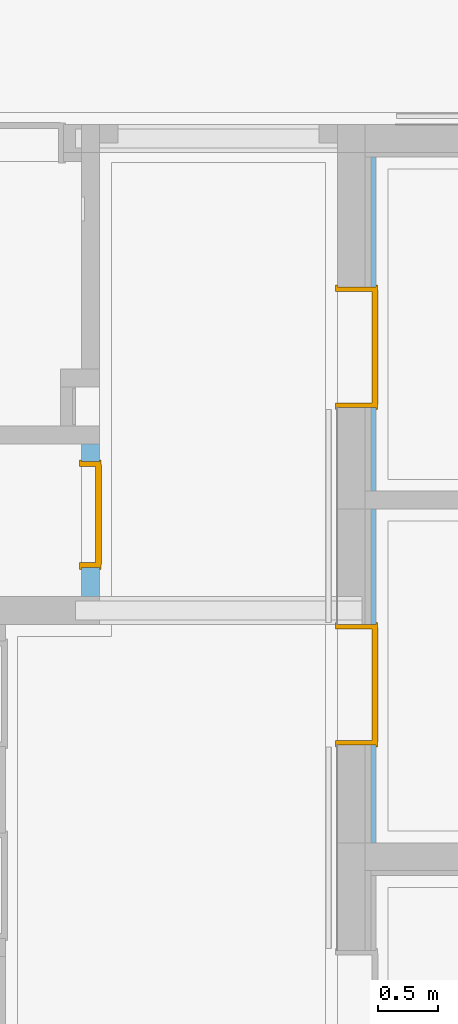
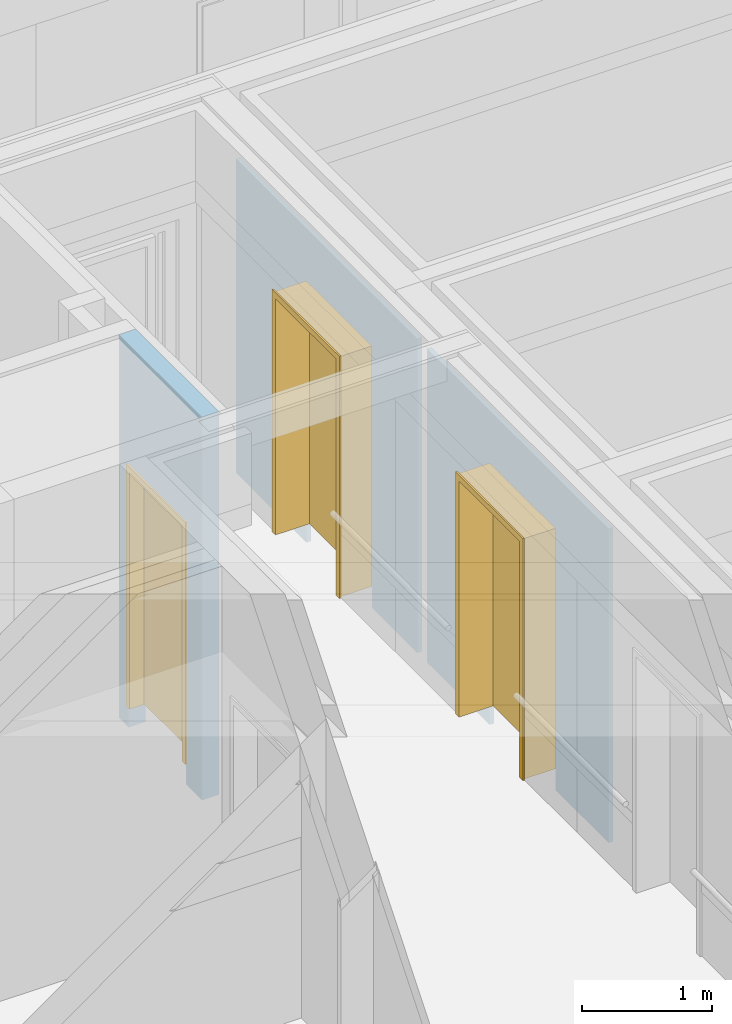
# One storey, part 80 of 207: 3 doors, 3 openings, plus 3 elements that do not belong to this part.
"""IFC4 building model written with IfcOpenShell, lengths in metres."""

from ifc_helpers import new_model, entity, si_unit, converted_unit, derived_unit, frame, frame_2d, origin, origin_with_axes, place, context, subcontext, project, spatial, polyline, rectangle, outline, extrude, faceted_brep, source, transform, mapped, material, type_object, element, fill, save


model = new_model("IFC4")

# Units and contexts
model_context = context("Model", 3, precision=1e-05, world=origin())
body_context = subcontext(model_context, "Body", "Model", "MODEL_VIEW")
ifc_project = project(units=[si_unit("LENGTHUNIT", "METRE"), si_unit("AREAUNIT", "SQUARE_METRE"), si_unit("VOLUMEUNIT", "CUBIC_METRE"), si_unit("MASSUNIT", "GRAM", prefix="KILO"), converted_unit("PLANEANGLEUNIT", "DEGREE", entity("IfcPlaneAngleMeasure", 0.0174532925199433), si_unit("PLANEANGLEUNIT", "RADIAN"), dimensions=[0, 0, 0, 0, 0, 0, 0]), derived_unit("THERMALTRANSMITTANCEUNIT", [(si_unit("POWERUNIT", "WATT"), 1), (si_unit("THERMODYNAMICTEMPERATUREUNIT", "KELVIN"), -1), (si_unit("LENGTHUNIT", "METRE"), -2)]), derived_unit("VOLUMETRICFLOWRATEUNIT", [(si_unit("LENGTHUNIT", "METRE"), 3), (converted_unit("TIMEUNIT", "hour", entity("IfcTimeMeasure", 3600.0), si_unit("TIMEUNIT", "SECOND"), dimensions=[0, 0, 1, 0, 0, 0, 0]), -1), (si_unit("LENGTHUNIT", "METRE"), -1)])], contexts=[model_context])

# Site, building, storey
site_placement = place(None, origin())
site = spatial("IfcSite", under=ifc_project, at=site_placement, Name="Psychiatrie Neubau Wunstorf", CompositionType="ELEMENT")
building_placement = place(site_placement, origin())
building = spatial("IfcBuilding", under=site, at=building_placement, Name="Neubau H2 Stationsgebäude", CompositionType="ELEMENT")
storey_placement = place(building_placement, frame((0.0, 0.0, -0.2)))
storey = spatial("IfcBuildingStorey", under=building, at=storey_placement, Name="H2 Ebene 0", CompositionType="ELEMENT", Elevation=-0.2)

# Wall, opening, door
ifc_material_1 = material(Name="WI-LB")
wall_1_placement = place(storey_placement, frame((7.775, 19.1650101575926, 0.0), z_axis=(0.0, 0.0, 1.0), x_axis=(0.0, -1.0, 0.0)))
wall_1 = element("IfcWall", 1, at=wall_1_placement, inside=storey, material=ifc_material_1, context=body_context, shape_type="SweptSolid", body=[
    extrude(rectangle(XDim=1.2789969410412, YDim=0.15, at=frame_2d((0.639498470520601, 0.075), x_axis=(1.0, 0.0))), origin_with_axes(), (0.0, 0.0, 1.0), 3.6),
])
opening_1_placement = place(wall_1_placement, frame((1.03500010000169, 0.15, 0.0), z_axis=(0.0, -1.0, 0.0), x_axis=(0.0, 0.0, 1.0)))
opening_1 = element("IfcOpeningElement", 2, at=opening_1_placement, cuts=wall_1, Name="Türöffnung", ObjectType="Opening", context=body_context, shape_type="SweptSolid", body=[
    extrude(outline(polyline([(2.46, 0.885000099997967), (2.46, 0.0), (0.0, 0.0), (0.0, 0.885000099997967), (2.46, 0.885000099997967)])), origin_with_axes(), (0.0, 0.0, 1.0), 0.15),
])
ifc_material_2 = material(Name="TI-1F-UZ-ZK")
door_type_1 = type_object("IfcDoorType", Name="SMT", OperationType="SINGLE_SWING_RIGHT", ParameterTakesPrecedence=False, PredefinedType="DOOR")
shared_shape_1 = source(origin_with_axes(), body_context, "Body", "Brep", [
    faceted_brep([(-0.0649999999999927, 0.0249999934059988, 0.0), (-0.0249999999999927, 0.0249999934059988, 0.0), (-0.0249999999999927, 0.124999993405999, 0.0), (-0.0649999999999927, 0.124999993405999, 0.0), (-0.0649999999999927, 0.124999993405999, 3.6), (-0.0249999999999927, 0.124999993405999, 3.6), (-0.0249999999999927, 0.0249999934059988, 3.6), (-0.0649999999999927, 0.0249999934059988, 3.6)], [[[0, 1, 2, 3]], [[4, 5, 6, 7]], [[3, 4, 7, 0]], [[2, 5, 4, 3]], [[1, 6, 5, 2]], [[0, 7, 6, 1]]], orient=[[False], [False], [False], [False], [False], [False]]),
    faceted_brep([(0.910000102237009, 0.0249999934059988, 0.0), (0.950000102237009, 0.0249999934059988, 0.0), (0.950000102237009, 0.124999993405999, 0.0), (0.910000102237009, 0.124999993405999, 0.0), (0.910000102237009, 0.124999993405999, 3.6), (0.950000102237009, 0.124999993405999, 3.6), (0.950000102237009, 0.0249999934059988, 3.6), (0.910000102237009, 0.0249999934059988, 3.6)], [[[0, 1, 2, 3]], [[4, 5, 6, 7]], [[3, 4, 7, 0]], [[2, 5, 4, 3]], [[1, 6, 5, 2]], [[0, 7, 6, 1]]], orient=[[False], [False], [False], [False], [False], [False]]),
    faceted_brep([(-0.0249999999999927, 0.0249999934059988, 2.485), (0.910000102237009, 0.0249999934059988, 2.485), (0.910000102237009, 0.124999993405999, 2.485), (-0.0249999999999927, 0.124999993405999, 2.485), (-0.0249999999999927, 0.124999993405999, 2.525), (0.910000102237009, 0.124999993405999, 2.525), (0.910000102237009, 0.0249999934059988, 2.525), (-0.0249999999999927, 0.0249999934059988, 2.525)], [[[0, 1, 2, 3]], [[4, 5, 6, 7]], [[3, 4, 7, 0]], [[2, 5, 4, 3]], [[1, 6, 5, 2]], [[0, 7, 6, 1]]], orient=[[False], [False], [False], [False], [False], [False]]),
])
shared_shape_2 = source(origin_with_axes(), body_context, "Body", "Brep", [
    faceted_brep([(0.0, -0.0150000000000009, 2.46), (0.0400000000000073, -0.0150000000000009, 2.46), (0.0400000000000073, -0.0150000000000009, 0.2), (0.0, -0.0150000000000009, 0.2), (0.0, 0.164999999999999, 0.2), (0.0400000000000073, 0.164999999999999, 0.2), (0.0400000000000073, 0.164999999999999, 2.46), (0.0, 0.164999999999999, 2.46)], [[[0, 1, 2, 3]], [[4, 5, 6, 7]], [[3, 4, 7, 0]], [[2, 5, 4, 3]], [[1, 6, 5, 2]], [[0, 7, 6, 1]]], orient=[[False], [False], [False], [False], [False], [False]]),
    faceted_brep([(0.0, -0.0150000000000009, 2.475), (0.0, -0.0150000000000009, 0.2), (-0.0149999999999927, -0.0150000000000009, 0.2), (-0.0149999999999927, -0.0150000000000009, 2.475), (0.0, 0.0, 0.2), (0.0, 0.0, 2.475), (-0.0149999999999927, 0.0, 2.475), (-0.0149999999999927, 0.0, 0.2)], [[[0, 1, 2, 3]], [[4, 5, 6, 7]], [[1, 0, 5, 4]], [[2, 1, 4, 7]], [[3, 2, 7, 6]], [[0, 3, 6, 5]]], orient=[[False], [False], [False], [False], [False], [False]]),
    faceted_brep([(0.0, 0.149999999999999, 2.475), (0.0, 0.149999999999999, 0.2), (-0.0149999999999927, 0.149999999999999, 0.2), (-0.0149999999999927, 0.149999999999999, 2.475), (0.0, 0.164999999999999, 0.2), (0.0, 0.164999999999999, 2.475), (-0.0149999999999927, 0.164999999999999, 2.475), (-0.0149999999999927, 0.164999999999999, 0.2)], [[[0, 1, 2, 3]], [[4, 5, 6, 7]], [[1, 0, 5, 4]], [[2, 1, 4, 7]], [[3, 2, 7, 6]], [[0, 3, 6, 5]]], orient=[[False], [False], [False], [False], [False], [False]]),
    faceted_brep([(0.8450001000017, -0.0150000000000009, 2.46), (0.8850001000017, -0.0150000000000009, 2.46), (0.8850001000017, -0.0150000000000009, 0.2), (0.8450001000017, -0.0150000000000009, 0.2), (0.8450001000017, 0.164999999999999, 0.2), (0.8850001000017, 0.164999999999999, 0.2), (0.8850001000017, 0.164999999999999, 2.46), (0.8450001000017, 0.164999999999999, 2.46)], [[[0, 1, 2, 3]], [[4, 5, 6, 7]], [[3, 4, 7, 0]], [[2, 5, 4, 3]], [[1, 6, 5, 2]], [[0, 7, 6, 1]]], orient=[[False], [False], [False], [False], [False], [False]]),
    faceted_brep([(0.8850001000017, -0.0150000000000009, 2.475), (0.9000001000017, -0.0150000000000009, 2.475), (0.9000001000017, -0.0150000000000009, 0.2), (0.8850001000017, -0.0150000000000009, 0.2), (0.8850001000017, 0.0, 0.2), (0.9000001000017, 0.0, 0.2), (0.9000001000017, 0.0, 2.475), (0.8850001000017, 0.0, 2.475)], [[[0, 1, 2, 3]], [[4, 5, 6, 7]], [[3, 4, 7, 0]], [[2, 5, 4, 3]], [[1, 6, 5, 2]], [[0, 7, 6, 1]]], orient=[[False], [False], [False], [False], [False], [False]]),
    faceted_brep([(0.8850001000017, 0.149999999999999, 2.475), (0.9000001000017, 0.149999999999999, 2.475), (0.9000001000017, 0.149999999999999, 0.2), (0.8850001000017, 0.149999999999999, 0.2), (0.8850001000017, 0.164999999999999, 0.2), (0.9000001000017, 0.164999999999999, 0.2), (0.9000001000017, 0.164999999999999, 2.475), (0.8850001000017, 0.164999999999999, 2.475)], [[[0, 1, 2, 3]], [[4, 5, 6, 7]], [[3, 4, 7, 0]], [[2, 5, 4, 3]], [[1, 6, 5, 2]], [[0, 7, 6, 1]]], orient=[[False], [False], [False], [False], [False], [False]]),
    faceted_brep([(0.0400000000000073, -0.0150000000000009, 2.46), (0.8450001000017, -0.0150000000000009, 2.46), (0.8450001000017, -0.0150000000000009, 2.42), (0.0400000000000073, -0.0150000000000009, 2.42), (0.0400000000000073, 0.164999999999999, 2.42), (0.8450001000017, 0.164999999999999, 2.42), (0.8450001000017, 0.164999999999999, 2.46), (0.0400000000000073, 0.164999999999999, 2.46)], [[[0, 1, 2, 3]], [[4, 5, 6, 7]], [[3, 4, 7, 0]], [[2, 5, 4, 3]], [[1, 6, 5, 2]], [[0, 7, 6, 1]]], orient=[[False], [False], [False], [False], [False], [False]]),
    faceted_brep([(0.0, -0.0150000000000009, 2.475), (0.8850001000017, -0.0150000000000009, 2.475), (0.8850001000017, -0.0150000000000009, 2.46), (0.0, -0.0150000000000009, 2.46), (0.0, 0.0, 2.46), (0.8850001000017, 0.0, 2.46), (0.8850001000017, 0.0, 2.475), (0.0, 0.0, 2.475)], [[[0, 1, 2, 3]], [[4, 5, 6, 7]], [[3, 4, 7, 0]], [[2, 5, 4, 3]], [[1, 6, 5, 2]], [[0, 7, 6, 1]]], orient=[[False], [False], [False], [False], [False], [False]]),
    faceted_brep([(0.0, 0.149999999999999, 2.475), (0.8850001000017, 0.149999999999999, 2.475), (0.8850001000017, 0.149999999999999, 2.46), (0.0, 0.149999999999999, 2.46), (0.0, 0.164999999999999, 2.46), (0.8850001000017, 0.164999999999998, 2.46), (0.8850001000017, 0.164999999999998, 2.475), (0.0, 0.164999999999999, 2.475)], [[[0, 1, 2, 3]], [[4, 5, 6, 7]], [[3, 4, 7, 0]], [[2, 5, 4, 3]], [[1, 6, 5, 2]], [[0, 7, 6, 1]]], orient=[[False], [False], [False], [False], [False], [False]]),
    faceted_brep([(0.0250000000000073, 0.115999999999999, 2.435), (0.8600001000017, 0.115999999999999, 2.435), (0.8600001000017, 0.115999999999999, 0.2), (0.0250000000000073, 0.115999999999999, 0.2), (0.0250000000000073, 0.165999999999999, 0.2), (0.8600001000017, 0.165999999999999, 0.2), (0.8600001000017, 0.165999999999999, 2.435), (0.0250000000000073, 0.165999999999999, 2.435)], [[[0, 1, 2, 3]], [[4, 5, 6, 7]], [[3, 4, 7, 0]], [[2, 5, 4, 3]], [[1, 6, 5, 2]], [[0, 7, 6, 1]]], orient=[[False], [False], [False], [False], [False], [False]]),
])
door_1_placement = place(opening_1_placement, frame((0.0, 0.885000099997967, 0.15), z_axis=(1.0, 0.0, 0.0), x_axis=(0.0, -1.0, 0.0)))
door_1 = element("IfcDoor", 3, at=door_1_placement, inside=storey, type_object=door_type_1, material=ifc_material_2, Name="SMT", OverallHeight=2.46, OverallWidth=0.885, context=body_context, shape_type="MappedRepresentation", body=[
    mapped(shared_shape_1, transform((0.0, 0.0, 0.0), x_axis=(1.0, 0.0, 0.0), y_axis=(0.0, 1.0, 0.0), z_axis=(0.0, 0.0, 1.0), scale=1.0)),
    mapped(shared_shape_2, transform((0.0, 0.0, 0.0), x_axis=(1.0, 0.0, 0.0), y_axis=(0.0, 1.0, 0.0), z_axis=(0.0, 0.0, 1.0), scale=1.0)),
])
fill(opening_1, door_1)

ifc_material_3 = material(Name="WI-LB")
wall_2_placement = place(storey_placement, frame((10.2390000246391, 18.768, 0.0), z_axis=(0.0, 0.0, 1.0), x_axis=(0.0, 1.0, 0.0)))
wall_2 = element("IfcWall", 4, at=wall_2_placement, inside=storey, material=ifc_material_3, context=body_context, shape_type="SweptSolid", body=[
    extrude(rectangle(XDim=2.796, YDim=0.0395, at=frame_2d((1.398, 0.01975), x_axis=(1.0, 0.0))), origin_with_axes(), (0.0, 0.0, 1.0), 2.95),
])
opening_2_placement = place(wall_2_placement, frame((1.71, 0.0395, 0.0), z_axis=(0.0, -1.0, 0.0), x_axis=(0.0, 0.0, 1.0)))
opening_2 = element("IfcOpeningElement", 5, at=opening_2_placement, cuts=wall_2, Name="Türöffnung", ObjectType="Opening", context=body_context, shape_type="SweptSolid", body=[
    extrude(outline(polyline([(2.46, 1.01), (2.46, 0.0), (0.0, 0.0), (0.0, 1.01), (2.46, 1.01)])), origin_with_axes(), (0.0, 0.0, 1.0), 0.0395),
])
ifc_material_4 = material(Name="TI-1F-UZ-ZK")
door_type_2 = type_object("IfcDoorType", Name="SMT", OperationType="SINGLE_SWING_RIGHT", ParameterTakesPrecedence=False, PredefinedType="DOOR")
shared_shape_3 = source(origin_with_axes(), body_context, "Body", "Brep", [
    faceted_brep([(1.01000000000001, -0.0150000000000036, 2.46), (1.01000000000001, -0.0150000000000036, 0.2), (0.970000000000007, -0.0150000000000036, 0.2), (0.970000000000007, -0.0150000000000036, 2.46), (1.01000000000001, 0.336499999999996, 0.2), (1.01000000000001, 0.336499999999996, 2.46), (0.970000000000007, 0.336499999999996, 2.46), (0.970000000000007, 0.336499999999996, 0.2)], [[[0, 1, 2, 3]], [[4, 5, 6, 7]], [[1, 0, 5, 4]], [[2, 1, 4, 7]], [[3, 2, 7, 6]], [[0, 3, 6, 5]]], orient=[[False], [False], [False], [False], [False], [False]]),
    faceted_brep([(1.01000000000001, -0.0150000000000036, 2.475), (1.02500000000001, -0.0150000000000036, 2.475), (1.02500000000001, -0.0150000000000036, 0.2), (1.01000000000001, -0.0150000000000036, 0.2), (1.01000000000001, 0.0, 0.2), (1.02500000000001, 0.0, 0.2), (1.02500000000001, 0.0, 2.475), (1.01000000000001, 0.0, 2.475)], [[[0, 1, 2, 3]], [[4, 5, 6, 7]], [[3, 4, 7, 0]], [[2, 5, 4, 3]], [[1, 6, 5, 2]], [[0, 7, 6, 1]]], orient=[[False], [False], [False], [False], [False], [False]]),
    faceted_brep([(1.01000000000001, 0.321499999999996, 2.475), (1.02500000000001, 0.321499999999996, 2.475), (1.02500000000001, 0.321499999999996, 0.2), (1.01000000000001, 0.321499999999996, 0.2), (1.01000000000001, 0.336499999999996, 0.2), (1.02500000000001, 0.336499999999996, 0.2), (1.02500000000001, 0.336499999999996, 2.475), (1.01000000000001, 0.336499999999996, 2.475)], [[[0, 1, 2, 3]], [[4, 5, 6, 7]], [[3, 4, 7, 0]], [[2, 5, 4, 3]], [[1, 6, 5, 2]], [[0, 7, 6, 1]]], orient=[[False], [False], [False], [False], [False], [False]]),
    faceted_brep([(0.0400000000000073, -0.0150000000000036, 2.46), (0.0400000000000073, -0.0150000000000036, 0.2), (0.0, -0.0150000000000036, 0.2), (0.0, -0.0150000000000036, 2.46), (0.0400000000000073, 0.336499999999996, 0.2), (0.0400000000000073, 0.336499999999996, 2.46), (0.0, 0.336499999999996, 2.46), (0.0, 0.336499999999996, 0.2)], [[[0, 1, 2, 3]], [[4, 5, 6, 7]], [[1, 0, 5, 4]], [[2, 1, 4, 7]], [[3, 2, 7, 6]], [[0, 3, 6, 5]]], orient=[[False], [False], [False], [False], [False], [False]]),
    faceted_brep([(0.0, -0.0150000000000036, 2.475), (0.0, -0.0150000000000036, 0.2), (-0.0149999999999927, -0.0150000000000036, 0.2), (-0.0149999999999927, -0.0150000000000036, 2.475), (0.0, 0.0, 0.2), (0.0, 0.0, 2.475), (-0.0149999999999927, 0.0, 2.475), (-0.0149999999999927, 0.0, 0.2)], [[[0, 1, 2, 3]], [[4, 5, 6, 7]], [[1, 0, 5, 4]], [[2, 1, 4, 7]], [[3, 2, 7, 6]], [[0, 3, 6, 5]]], orient=[[False], [False], [False], [False], [False], [False]]),
    faceted_brep([(0.0, 0.321499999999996, 2.475), (0.0, 0.321499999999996, 0.2), (-0.0149999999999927, 0.321499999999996, 0.2), (-0.0149999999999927, 0.321499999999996, 2.475), (0.0, 0.336499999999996, 0.2), (0.0, 0.336499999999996, 2.475), (-0.0149999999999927, 0.336499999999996, 2.475), (-0.0149999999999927, 0.336499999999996, 0.2)], [[[0, 1, 2, 3]], [[4, 5, 6, 7]], [[1, 0, 5, 4]], [[2, 1, 4, 7]], [[3, 2, 7, 6]], [[0, 3, 6, 5]]], orient=[[False], [False], [False], [False], [False], [False]]),
    faceted_brep([(0.970000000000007, -0.0150000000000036, 2.46), (0.970000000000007, -0.0150000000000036, 2.42), (0.0400000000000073, -0.0150000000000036, 2.42), (0.0400000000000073, -0.0150000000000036, 2.46), (0.970000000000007, 0.336499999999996, 2.42), (0.970000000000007, 0.336499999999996, 2.46), (0.0400000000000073, 0.336499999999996, 2.46), (0.0400000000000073, 0.336499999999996, 2.42)], [[[0, 1, 2, 3]], [[4, 5, 6, 7]], [[1, 0, 5, 4]], [[2, 1, 4, 7]], [[3, 2, 7, 6]], [[0, 3, 6, 5]]], orient=[[False], [False], [False], [False], [False], [False]]),
    faceted_brep([(1.01000000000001, -0.0150000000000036, 2.475), (1.01000000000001, -0.0150000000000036, 2.46), (0.0, -0.0150000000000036, 2.46), (0.0, -0.0150000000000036, 2.475), (1.01000000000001, 0.0, 2.46), (1.01000000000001, 0.0, 2.475), (0.0, 0.0, 2.475), (0.0, 0.0, 2.46)], [[[0, 1, 2, 3]], [[4, 5, 6, 7]], [[1, 0, 5, 4]], [[2, 1, 4, 7]], [[3, 2, 7, 6]], [[0, 3, 6, 5]]], orient=[[False], [False], [False], [False], [False], [False]]),
    faceted_brep([(1.01000000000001, 0.321499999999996, 2.475), (1.01000000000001, 0.321499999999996, 2.46), (0.0, 0.321499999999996, 2.46), (0.0, 0.321499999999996, 2.475), (1.01000000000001, 0.336499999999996, 2.46), (1.01000000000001, 0.336499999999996, 2.475), (0.0, 0.336499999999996, 2.475), (0.0, 0.336499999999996, 2.46)], [[[0, 1, 2, 3]], [[4, 5, 6, 7]], [[1, 0, 5, 4]], [[2, 1, 4, 7]], [[3, 2, 7, 6]], [[0, 3, 6, 5]]], orient=[[False], [False], [False], [False], [False], [False]]),
    faceted_brep([(0.985000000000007, 0.287499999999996, 2.435), (0.985000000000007, 0.287499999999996, 0.2), (0.0250000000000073, 0.287499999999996, 0.2), (0.0250000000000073, 0.287499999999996, 2.435), (0.985000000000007, 0.337499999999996, 0.2), (0.985000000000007, 0.337499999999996, 2.435), (0.0250000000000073, 0.337499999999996, 2.435), (0.0250000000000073, 0.337499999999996, 0.2)], [[[0, 1, 2, 3]], [[4, 5, 6, 7]], [[1, 0, 5, 4]], [[2, 1, 4, 7]], [[3, 2, 7, 6]], [[0, 3, 6, 5]]], orient=[[False], [False], [False], [False], [False], [False]]),
])
door_2_placement = place(opening_2_placement, frame((0.0, 0.0, -0.282), z_axis=(1.0, 0.0, 0.0), x_axis=(0.0, 1.0, 0.0)))
door_2 = element("IfcDoor", 6, at=door_2_placement, inside=storey, type_object=door_type_2, material=ifc_material_4, Name="SMT", OverallHeight=2.46, OverallWidth=1.01, context=body_context, shape_type="MappedRepresentation", body=[
    mapped(shared_shape_3, transform((0.0, 0.0, 0.0), x_axis=(1.0, 0.0, 0.0), y_axis=(0.0, 1.0, 0.0), z_axis=(0.0, 0.0, 1.0), scale=1.0)),
])
fill(opening_2, door_2)

ifc_material_5 = material(Name="WI-LB")
wall_3_placement = place(storey_placement, frame((10.2390000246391, 15.8255, 0.0), z_axis=(0.0, 0.0, 1.0), x_axis=(0.0, 1.0, 0.0)))
wall_3 = element("IfcWall", 7, at=wall_3_placement, inside=storey, material=ifc_material_5, context=body_context, shape_type="SweptSolid", body=[
    extrude(rectangle(XDim=2.7925, YDim=0.0395, at=frame_2d((1.39625, 0.01975), x_axis=(1.0, 0.0))), origin_with_axes(), (0.0, 0.0, 1.0), 2.95),
])
opening_3_placement = place(wall_3_placement, frame((1.82851321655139, 0.0395, 0.0), z_axis=(0.0, -1.0, 0.0), x_axis=(0.0, 0.0, 1.0)))
opening_3 = element("IfcOpeningElement", 8, at=opening_3_placement, cuts=wall_3, Name="Türöffnung", ObjectType="Opening", context=body_context, shape_type="SweptSolid", body=[
    extrude(outline(polyline([(2.46, 1.01), (2.46, 0.0), (0.0, 0.0), (0.0, 1.01), (2.46, 1.01)])), origin_with_axes(), (0.0, 0.0, 1.0), 0.0395),
])
ifc_material_6 = material(Name="TI-1F-UZ-ZK")
door_type_3 = type_object("IfcDoorType", Name="SMT", OperationType="SINGLE_SWING_RIGHT", ParameterTakesPrecedence=False, PredefinedType="DOOR")
shared_shape_4 = source(origin_with_axes(), body_context, "Body", "Brep", [
    faceted_brep([(0.0, -0.0150000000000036, 2.46), (0.0400000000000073, -0.0150000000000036, 2.46), (0.0400000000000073, -0.0150000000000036, 0.2), (0.0, -0.0150000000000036, 0.2), (0.0, 0.336499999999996, 0.2), (0.0400000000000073, 0.336499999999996, 0.2), (0.0400000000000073, 0.336499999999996, 2.46), (0.0, 0.336499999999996, 2.46)], [[[0, 1, 2, 3]], [[4, 5, 6, 7]], [[3, 4, 7, 0]], [[2, 5, 4, 3]], [[1, 6, 5, 2]], [[0, 7, 6, 1]]], orient=[[False], [False], [False], [False], [False], [False]]),
    faceted_brep([(0.0, -0.0150000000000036, 2.475), (0.0, -0.0150000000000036, 0.2), (-0.0149999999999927, -0.0150000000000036, 0.2), (-0.0149999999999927, -0.0150000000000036, 2.475), (0.0, 0.0, 0.2), (0.0, 0.0, 2.475), (-0.0149999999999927, 0.0, 2.475), (-0.0149999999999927, 0.0, 0.2)], [[[0, 1, 2, 3]], [[4, 5, 6, 7]], [[1, 0, 5, 4]], [[2, 1, 4, 7]], [[3, 2, 7, 6]], [[0, 3, 6, 5]]], orient=[[False], [False], [False], [False], [False], [False]]),
    faceted_brep([(0.0, 0.321499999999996, 2.475), (0.0, 0.321499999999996, 0.2), (-0.0149999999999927, 0.321499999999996, 0.2), (-0.0149999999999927, 0.321499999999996, 2.475), (0.0, 0.336499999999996, 0.2), (0.0, 0.336499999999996, 2.475), (-0.0149999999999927, 0.336499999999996, 2.475), (-0.0149999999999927, 0.336499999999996, 0.2)], [[[0, 1, 2, 3]], [[4, 5, 6, 7]], [[1, 0, 5, 4]], [[2, 1, 4, 7]], [[3, 2, 7, 6]], [[0, 3, 6, 5]]], orient=[[False], [False], [False], [False], [False], [False]]),
    faceted_brep([(0.970000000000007, -0.0150000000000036, 2.46), (1.01000000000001, -0.0150000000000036, 2.46), (1.01000000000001, -0.0150000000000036, 0.2), (0.970000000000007, -0.0150000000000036, 0.2), (0.970000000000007, 0.336499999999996, 0.2), (1.01000000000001, 0.336499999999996, 0.2), (1.01000000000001, 0.336499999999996, 2.46), (0.970000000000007, 0.336499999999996, 2.46)], [[[0, 1, 2, 3]], [[4, 5, 6, 7]], [[3, 4, 7, 0]], [[2, 5, 4, 3]], [[1, 6, 5, 2]], [[0, 7, 6, 1]]], orient=[[False], [False], [False], [False], [False], [False]]),
    faceted_brep([(1.01000000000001, -0.0150000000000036, 2.475), (1.02500000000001, -0.0150000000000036, 2.475), (1.02500000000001, -0.0150000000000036, 0.2), (1.01000000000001, -0.0150000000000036, 0.2), (1.01000000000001, 0.0, 0.2), (1.02500000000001, 0.0, 0.2), (1.02500000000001, 0.0, 2.475), (1.01000000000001, 0.0, 2.475)], [[[0, 1, 2, 3]], [[4, 5, 6, 7]], [[3, 4, 7, 0]], [[2, 5, 4, 3]], [[1, 6, 5, 2]], [[0, 7, 6, 1]]], orient=[[False], [False], [False], [False], [False], [False]]),
    faceted_brep([(1.01000000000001, 0.321499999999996, 2.475), (1.02500000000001, 0.321499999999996, 2.475), (1.02500000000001, 0.321499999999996, 0.2), (1.01000000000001, 0.321499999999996, 0.2), (1.01000000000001, 0.336499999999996, 0.2), (1.02500000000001, 0.336499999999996, 0.2), (1.02500000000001, 0.336499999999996, 2.475), (1.01000000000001, 0.336499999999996, 2.475)], [[[0, 1, 2, 3]], [[4, 5, 6, 7]], [[3, 4, 7, 0]], [[2, 5, 4, 3]], [[1, 6, 5, 2]], [[0, 7, 6, 1]]], orient=[[False], [False], [False], [False], [False], [False]]),
    faceted_brep([(0.0400000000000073, -0.0150000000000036, 2.46), (0.970000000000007, -0.0150000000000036, 2.46), (0.970000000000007, -0.0150000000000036, 2.42), (0.0400000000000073, -0.0150000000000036, 2.42), (0.0400000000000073, 0.336499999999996, 2.42), (0.970000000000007, 0.336499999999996, 2.42), (0.970000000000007, 0.336499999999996, 2.46), (0.0400000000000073, 0.336499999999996, 2.46)], [[[0, 1, 2, 3]], [[4, 5, 6, 7]], [[3, 4, 7, 0]], [[2, 5, 4, 3]], [[1, 6, 5, 2]], [[0, 7, 6, 1]]], orient=[[False], [False], [False], [False], [False], [False]]),
    faceted_brep([(0.0, -0.0150000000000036, 2.475), (1.01000000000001, -0.0150000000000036, 2.475), (1.01000000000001, -0.0150000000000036, 2.46), (0.0, -0.0150000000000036, 2.46), (0.0, 0.0, 2.46), (1.01000000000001, 0.0, 2.46), (1.01000000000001, 0.0, 2.475), (0.0, 0.0, 2.475)], [[[0, 1, 2, 3]], [[4, 5, 6, 7]], [[3, 4, 7, 0]], [[2, 5, 4, 3]], [[1, 6, 5, 2]], [[0, 7, 6, 1]]], orient=[[False], [False], [False], [False], [False], [False]]),
    faceted_brep([(0.0, 0.321499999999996, 2.475), (1.01000000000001, 0.321499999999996, 2.475), (1.01000000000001, 0.321499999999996, 2.46), (0.0, 0.321499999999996, 2.46), (0.0, 0.336499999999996, 2.46), (1.01000000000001, 0.336499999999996, 2.46), (1.01000000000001, 0.336499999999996, 2.475), (0.0, 0.336499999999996, 2.475)], [[[0, 1, 2, 3]], [[4, 5, 6, 7]], [[3, 4, 7, 0]], [[2, 5, 4, 3]], [[1, 6, 5, 2]], [[0, 7, 6, 1]]], orient=[[False], [False], [False], [False], [False], [False]]),
    faceted_brep([(0.0250000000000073, 0.287499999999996, 2.435), (0.985000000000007, 0.287499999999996, 2.435), (0.985000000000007, 0.287499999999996, 0.2), (0.0250000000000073, 0.287499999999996, 0.2), (0.0250000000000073, 0.337499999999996, 0.2), (0.985000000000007, 0.337499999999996, 0.2), (0.985000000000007, 0.337499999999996, 2.435), (0.0250000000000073, 0.337499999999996, 2.435)], [[[0, 1, 2, 3]], [[4, 5, 6, 7]], [[3, 4, 7, 0]], [[2, 5, 4, 3]], [[1, 6, 5, 2]], [[0, 7, 6, 1]]], orient=[[False], [False], [False], [False], [False], [False]]),
])
door_3_placement = place(opening_3_placement, frame((0.0, 0.0, -0.282), z_axis=(1.0, 0.0, 0.0), x_axis=(0.0, 1.0, 0.0)))
door_3 = element("IfcDoor", 9, at=door_3_placement, inside=storey, type_object=door_type_3, material=ifc_material_6, Name="SMT", OverallHeight=2.46, OverallWidth=1.01, context=body_context, shape_type="MappedRepresentation", body=[
    mapped(shared_shape_4, transform((0.0, 0.0, 0.0), x_axis=(1.0, 0.0, 0.0), y_axis=(0.0, 1.0, 0.0), z_axis=(0.0, 0.0, 1.0), scale=1.0)),
])
fill(opening_3, door_3)

save(model, "model.ifc")
